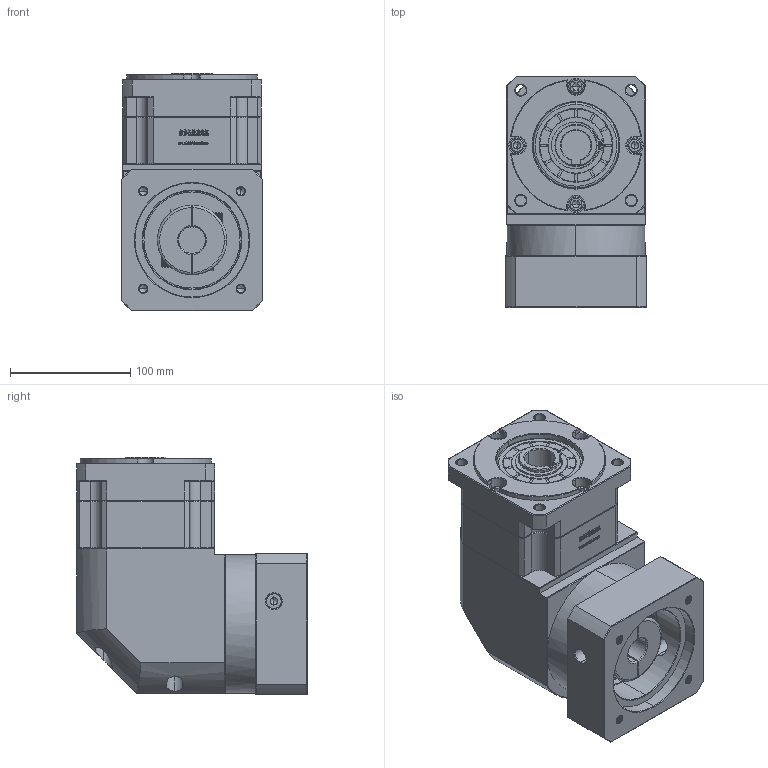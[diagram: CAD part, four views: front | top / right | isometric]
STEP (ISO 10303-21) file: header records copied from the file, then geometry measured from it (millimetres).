
FILE_DESCRIPTION (( 'STEP AP214' ), '1' );
FILE_NAME ('ZBR115A-K25-L1-22-95-115-M8.step', '2023-03-03T05:05:40', ( '' ), ( 'Microsoft' ), 'SwSTEP 2.0', 'SolidWorks 2016', '' );
FILE_SCHEMA (( 'AUTOMOTIVE_DESIGN' ));
Length unit declared in the file: millimetre
Products named in the file (1): ZBR115A-K25-L1-22-95-115-M8
Bounding box: 118 x 192.4 x 198 mm (x, y, z)
Volume: 2915490.9 mm3; surface area: 244486.1 mm2
Topology: 6 solids, 6 shells, 2927 faces, 7770 edges, 4989 vertices
Faces by surface type: plane 1552, bspline 598, cylinder 406, cone 363, torus 8
Entity records: 156432 total; most frequent: CARTESIAN_POINT 56178, ORIENTED_EDGE 15484, DIRECTION 11754, EDGE_CURVE 7742, VECTOR 5254, LINE 5254, VERTEX_POINT 4989, AXIS2_PLACEMENT_3D 3250
